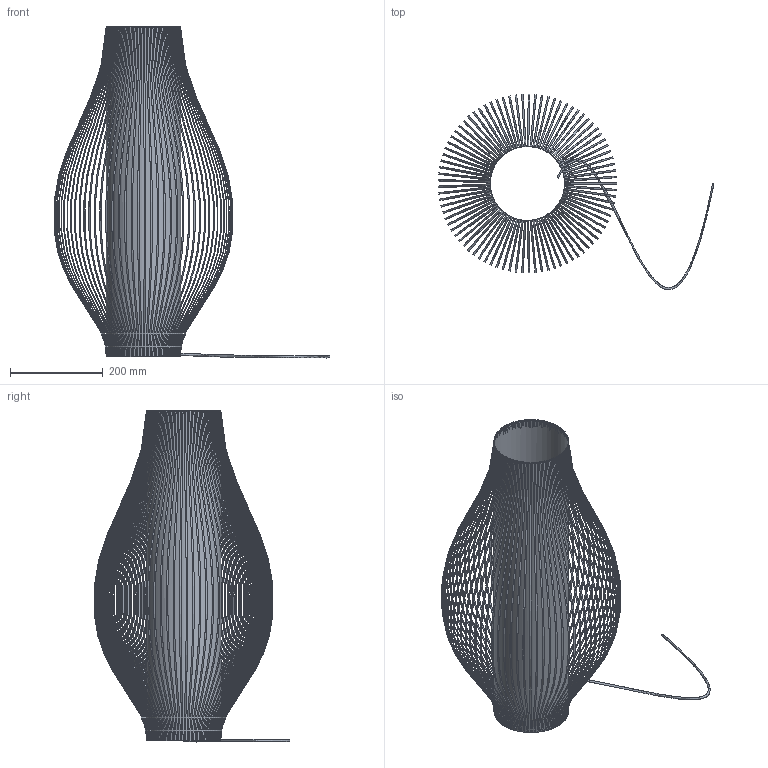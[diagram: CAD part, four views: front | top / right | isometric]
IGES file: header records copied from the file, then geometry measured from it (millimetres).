
Global section: file name: C:\Users\EQUIPO\Desktop\COLECCIONES ACB MODELADAS 3D OK\MURTA\murta-3054-70-e27 (IGES).igs; native system: Rhinoceros ( Oct  8 2013 ); preprocessor: Trout Lake IGES 012 Oct  8 2013; date: 190207.112728; units: millimetre
Bounding box: 593.71 x 420.5 x 714.38 mm (x, y, z)
Surface area: 809943.8 mm2 (no closed solid volume)
Topology: 0 solids, 0 shells, 513 faces, 2050 edges, 2047 vertices
Faces by surface type: bspline 513
